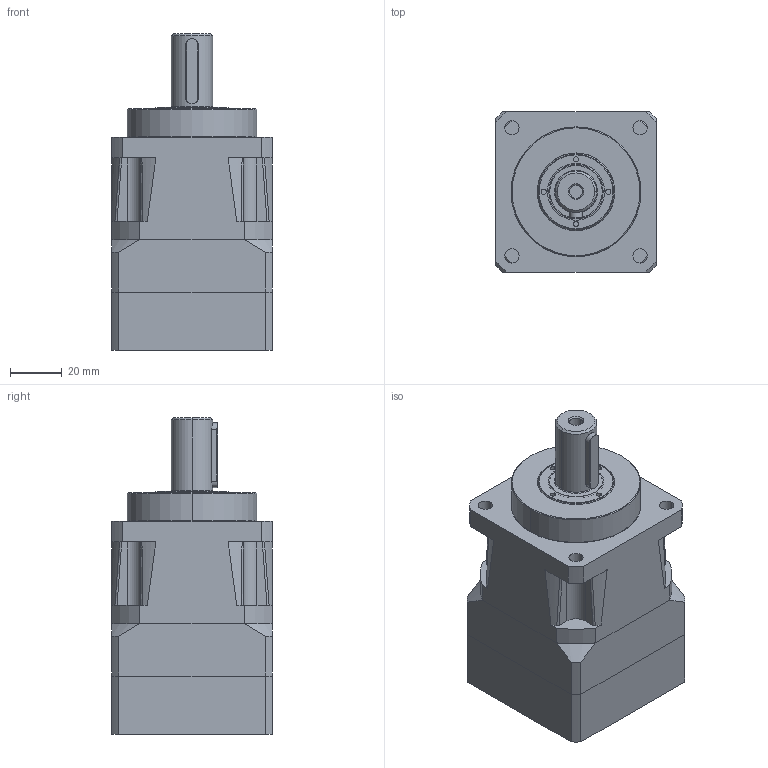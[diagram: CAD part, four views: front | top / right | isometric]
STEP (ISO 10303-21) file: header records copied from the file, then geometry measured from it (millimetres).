
FILE_DESCRIPTION((''),'2;1');
FILE_NAME('PS60-XXX-000-X2_ASM','2009-03-30T',('ata7311'),(''),'PRO/ENGINEER BY PARAMETRIC TECHNOLOGY CORPORATION, 2006300','PRO/ENGINEER BY PARAMETRIC TECHNOLOGY CORPORATION, 2006300','');
FILE_SCHEMA(('CONFIG_CONTROL_DESIGN'));
Products named in the file (14): 13388XXX; 13393000; HD202-0006; 10087128; 13386XXX_ASM; 13394000; 13389XXX; 12292000; 13120000; M5X20; 13384XXX_ASM; 13132003; M4X20; PS60-XXX-000-X2_ASM
Assembly tree (17 placements, depth 3):
  PS60-XXX-000-X2_ASM
    13386XXX_ASM
      13388XXX
      13393000
      HD202-0006
      10087128
    13384XXX_ASM
      13394000
      13389XXX
      12292000  x2
      13120000
      M5X20
    13132003
    M4X20  x4
Bounding box: 62 x 62 x 122.3 mm (x, y, z)
Volume: 198550.1 mm3; surface area: 76156.6 mm2
Topology: 15 solids, 15 shells, 433 faces, 1036 edges, 677 vertices
Faces by surface type: cylinder 183, plane 180, cone 52, torus 10, bspline 8
Entity records: 11854 total; most frequent: CARTESIAN_POINT 2716, DIRECTION 1976, ORIENTED_EDGE 1772, EDGE_CURVE 886, AXIS2_PLACEMENT_3D 792, VERTEX_POINT 579, EDGE_LOOP 431, CIRCLE 396
